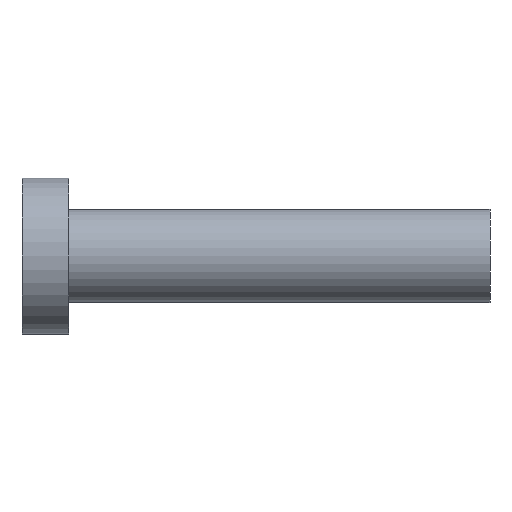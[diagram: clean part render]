
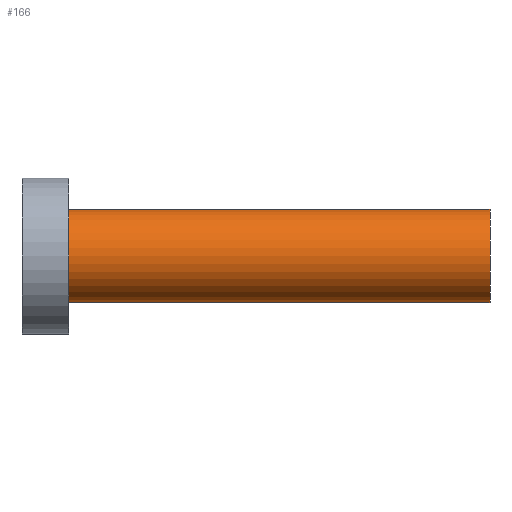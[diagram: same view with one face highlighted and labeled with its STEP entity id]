
A CAD part, front view. The second image highlights one B-rep face of the part: STEP entity #166.
In plain terms, the highlighted cylindrical face has radius 3 mm (diameter 6 mm), a full revolution.
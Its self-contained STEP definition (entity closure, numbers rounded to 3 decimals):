
#88 = PLANE('',#89);
#89 = AXIS2_PLACEMENT_3D('',#90,#91,#92);
#90 = CARTESIAN_POINT('',(79.,-4.8,-298.));
#91 = DIRECTION('',(1.,0.,0.));
#92 = DIRECTION('',(-0.,0.,1.));
#138 = EDGE_CURVE('',#139,#139,#141,.T.);
#139 = VERTEX_POINT('',#140);
#140 = CARTESIAN_POINT('',(79.,-7.8,-298.));
#141 = SURFACE_CURVE('',#142,(#147,#154),.PCURVE_S1.);
#142 = CIRCLE('',#143,3.);
#143 = AXIS2_PLACEMENT_3D('',#144,#145,#146);
#144 = CARTESIAN_POINT('',(79.,-4.8,-298.));
#145 = DIRECTION('',(1.,0.,0.));
#146 = DIRECTION('',(0.,-1.,0.));
#147 = PCURVE('',#88,#148);
#148 = DEFINITIONAL_REPRESENTATION('',(#149),#153);
#149 = CIRCLE('',#150,3.);
#150 = AXIS2_PLACEMENT_2D('',#151,#152);
#151 = CARTESIAN_POINT('',(0.,0.));
#152 = DIRECTION('',(0.,1.));
#153 = ( GEOMETRIC_REPRESENTATION_CONTEXT(2) 
PARAMETRIC_REPRESENTATION_CONTEXT() REPRESENTATION_CONTEXT('2D SPACE',''
  ) );
#154 = PCURVE('',#155,#160);
#155 = CYLINDRICAL_SURFACE('',#156,3.);
#156 = AXIS2_PLACEMENT_3D('',#157,#158,#159);
#157 = CARTESIAN_POINT('',(79.,-4.8,-298.));
#158 = DIRECTION('',(-1.,-0.,-0.));
#159 = DIRECTION('',(0.,-1.,0.));
#160 = DEFINITIONAL_REPRESENTATION('',(#161),#165);
#161 = LINE('',#162,#163);
#162 = CARTESIAN_POINT('',(-0.,0.));
#163 = VECTOR('',#164,1.);
#164 = DIRECTION('',(-1.,0.));
#165 = ( GEOMETRIC_REPRESENTATION_CONTEXT(2) 
PARAMETRIC_REPRESENTATION_CONTEXT() REPRESENTATION_CONTEXT('2D SPACE',''
  ) );
#166 = ADVANCED_FACE('',(#167),#155,.T.);
#167 = FACE_BOUND('',#168,.F.);
#168 = EDGE_LOOP('',(#169,#192,#219,#220));
#169 = ORIENTED_EDGE('',*,*,#170,.T.);
#170 = EDGE_CURVE('',#139,#171,#173,.T.);
#171 = VERTEX_POINT('',#172);
#172 = CARTESIAN_POINT('',(106.,-7.8,-298.));
#173 = SEAM_CURVE('',#174,(#178,#185),.PCURVE_S1.);
#174 = LINE('',#175,#176);
#175 = CARTESIAN_POINT('',(79.,-7.8,-298.));
#176 = VECTOR('',#177,1.);
#177 = DIRECTION('',(1.,0.,0.));
#178 = PCURVE('',#155,#179);
#179 = DEFINITIONAL_REPRESENTATION('',(#180),#184);
#180 = LINE('',#181,#182);
#181 = CARTESIAN_POINT('',(-0.,0.));
#182 = VECTOR('',#183,1.);
#183 = DIRECTION('',(-0.,-1.));
#184 = ( GEOMETRIC_REPRESENTATION_CONTEXT(2) 
PARAMETRIC_REPRESENTATION_CONTEXT() REPRESENTATION_CONTEXT('2D SPACE',''
  ) );
#185 = PCURVE('',#155,#186);
#186 = DEFINITIONAL_REPRESENTATION('',(#187),#191);
#187 = LINE('',#188,#189);
#188 = CARTESIAN_POINT('',(-6.283,0.));
#189 = VECTOR('',#190,1.);
#190 = DIRECTION('',(-0.,-1.));
#191 = ( GEOMETRIC_REPRESENTATION_CONTEXT(2) 
PARAMETRIC_REPRESENTATION_CONTEXT() REPRESENTATION_CONTEXT('2D SPACE',''
  ) );
#192 = ORIENTED_EDGE('',*,*,#193,.T.);
#193 = EDGE_CURVE('',#171,#171,#194,.T.);
#194 = SURFACE_CURVE('',#195,(#200,#207),.PCURVE_S1.);
#195 = CIRCLE('',#196,3.);
#196 = AXIS2_PLACEMENT_3D('',#197,#198,#199);
#197 = CARTESIAN_POINT('',(106.,-4.8,-298.));
#198 = DIRECTION('',(1.,0.,0.));
#199 = DIRECTION('',(0.,-1.,0.));
#200 = PCURVE('',#155,#201);
#201 = DEFINITIONAL_REPRESENTATION('',(#202),#206);
#202 = LINE('',#203,#204);
#203 = CARTESIAN_POINT('',(-0.,-27.));
#204 = VECTOR('',#205,1.);
#205 = DIRECTION('',(-1.,0.));
#206 = ( GEOMETRIC_REPRESENTATION_CONTEXT(2) 
PARAMETRIC_REPRESENTATION_CONTEXT() REPRESENTATION_CONTEXT('2D SPACE',''
  ) );
#207 = PCURVE('',#208,#213);
#208 = PLANE('',#209);
#209 = AXIS2_PLACEMENT_3D('',#210,#211,#212);
#210 = CARTESIAN_POINT('',(106.,-4.8,-298.));
#211 = DIRECTION('',(1.,0.,0.));
#212 = DIRECTION('',(-0.,0.,1.));
#213 = DEFINITIONAL_REPRESENTATION('',(#214),#218);
#214 = CIRCLE('',#215,3.);
#215 = AXIS2_PLACEMENT_2D('',#216,#217);
#216 = CARTESIAN_POINT('',(0.,0.));
#217 = DIRECTION('',(0.,1.));
#218 = ( GEOMETRIC_REPRESENTATION_CONTEXT(2) 
PARAMETRIC_REPRESENTATION_CONTEXT() REPRESENTATION_CONTEXT('2D SPACE',''
  ) );
#219 = ORIENTED_EDGE('',*,*,#170,.F.);
#220 = ORIENTED_EDGE('',*,*,#138,.F.);
